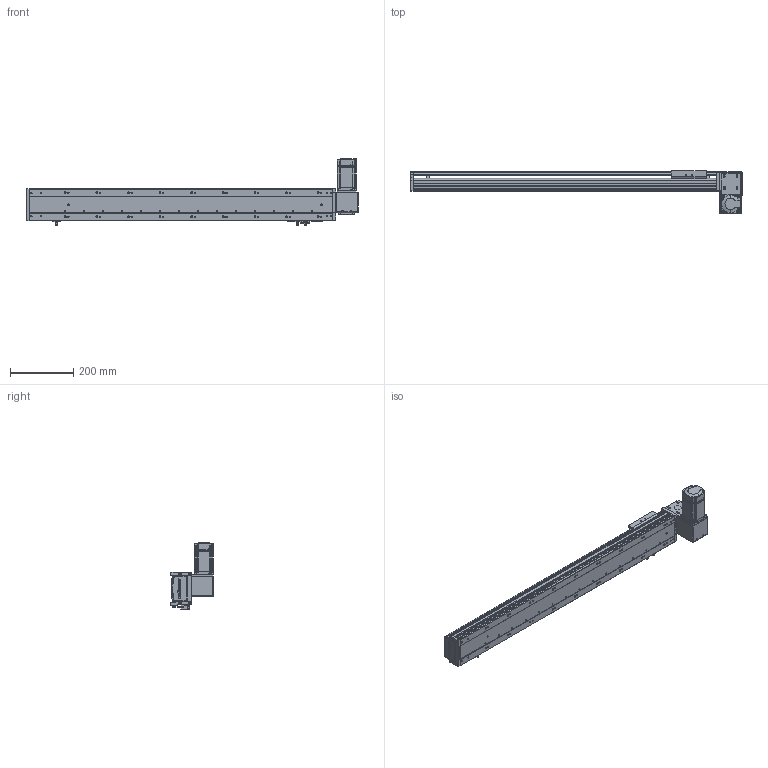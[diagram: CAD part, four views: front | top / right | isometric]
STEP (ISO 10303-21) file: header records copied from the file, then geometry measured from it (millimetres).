
FILE_DESCRIPTION (( 'STEP AP203' ), '1' );
FILE_NAME ('RY100-T-300-DR.SLDASM_750.step', '2024-04-25T03:22:33', ( '盈信电脑' ), ( '东莞市道滘镇水果街19号' ), 'SwSTEP 2.0', 'SolidWorks 2016', '' );
FILE_SCHEMA (( 'CONFIG_CONTROL_DESIGN' ));
Length unit declared in the file: millimetre
Products named in the file (16): RY80-T肮祭謫狟殏俋欶; RY100-T翋肮祭謫裔啣; 侂狟200W萇儂; 1; RY100-T-300-RK倰第菁釱_750; RY100-T左右折电机安装板; RY100-T肮祭謫翋盓傅釱; 覜茼ん672; RY100綴裔啣; 滅袉蝶18-10; RY100俋离覜茼え; RY100-T-300-RK倰第奻裔_750; RY100-T粣創揤踡裔; RY100-T-300-DR.SLDASM_750; RY100-T肮祭謫臏賑輸; RY100-T翋肮祭謫裔啣2
Assembly tree (19 placements, depth 3):
  RY100-T-300-DR.SLDASM_750
    RY100-T-300-RK倰第菁釱_750
    RY100-T-300-RK倰第奻裔_750
    RY100-T肮祭謫臏賑輸
    RY100綴裔啣
    覜茼ん672  x3
    RY100俋离覜茼え
    RY100-T肮祭謫翋盓傅釱
    RY100-T左右折电机安装板
    侂狟200W萇儂
      1
    RY100-T粣創揤踡裔
    滅袉蝶18-10  x2
    RY100-T翋肮祭謫裔啣2  x2
    RY100-T翋肮祭謫裔啣
    RY80-T肮祭謫狟殏俋欶
Bounding box: 1050 x 135.5 x 209.7 mm (x, y, z)
Volume: 2239691.3 mm3; surface area: 917589.6 mm2
Topology: 18 solids, 18 shells, 2253 faces, 6275 edges, 4077 vertices
Faces by surface type: plane 1221, cylinder 819, cone 135, bspline 78
Entity records: 72438 total; most frequent: CARTESIAN_POINT 17588, ORIENTED_EDGE 11286, DIRECTION 10723, EDGE_CURVE 5643, VERTEX_POINT 3713, LINE 3633, VECTOR 3633, AXIS2_PLACEMENT_3D 3545
